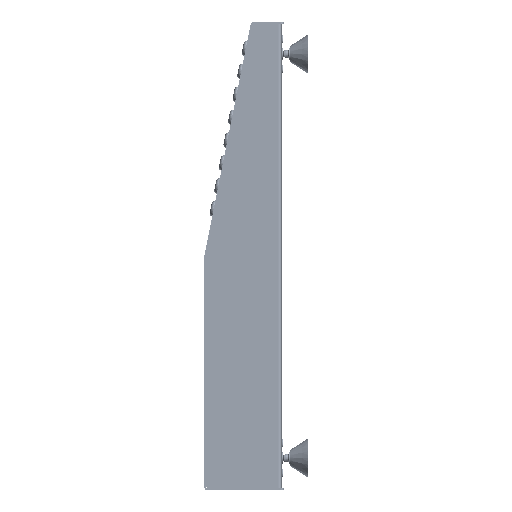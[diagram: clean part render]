
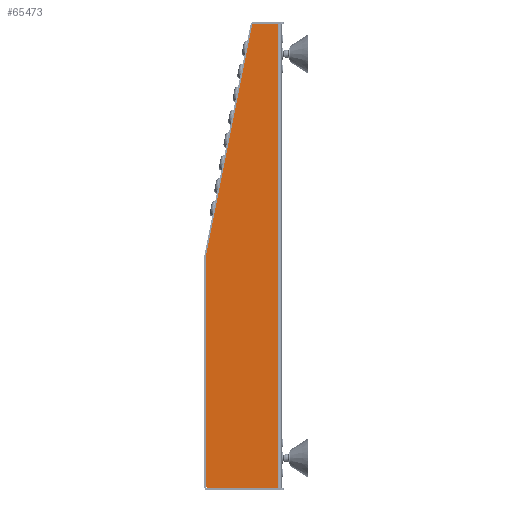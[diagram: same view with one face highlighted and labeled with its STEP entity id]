
A CAD part, left-side view. The second image highlights one B-rep face of the part: STEP entity #65473.
In plain terms, the highlighted planar face has unit normal (-1, 0, 0).
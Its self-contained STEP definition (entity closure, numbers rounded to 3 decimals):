
#549 = CARTESIAN_POINT ( 'NONE',  ( -270.272, -41.191, 910. ) ) ;
#1707 = EDGE_CURVE ( 'NONE', #30301, #14673, #14995, .T. ) ;
#1824 = EDGE_CURVE ( 'NONE', #69744, #7540, #22169, .T. ) ;
#2837 = FACE_OUTER_BOUND ( 'NONE', #20779, .T. ) ;
#2993 = CARTESIAN_POINT ( 'NONE',  ( -270.272, 47.309, 314. ) ) ;
#3195 = LINE ( 'NONE', #16761, #70899 ) ;
#7195 = PLANE ( 'NONE',  #54635 ) ;
#7465 = ORIENTED_EDGE ( 'NONE', *, *, #48470, .T. ) ;
#7540 = VERTEX_POINT ( 'NONE', #23604 ) ;
#8161 = CARTESIAN_POINT ( 'NONE',  ( -270.272, -41.191, 910. ) ) ;
#8198 = ORIENTED_EDGE ( 'NONE', *, *, #33863, .T. ) ;
#8258 = LINE ( 'NONE', #30186, #33664 ) ;
#8593 = DIRECTION ( 'NONE',  ( 0., 0., -1. ) ) ;
#11297 = CARTESIAN_POINT ( 'NONE',  ( -270.272, -8.09, 908.794 ) ) ;
#12047 = EDGE_CURVE ( 'NONE', #59924, #69744, #16184, .T. ) ;
#13736 = CARTESIAN_POINT ( 'NONE',  ( -270.272, 51.309, 318. ) ) ;
#14673 = VERTEX_POINT ( 'NONE', #42809 ) ;
#14934 = ORIENTED_EDGE ( 'NONE', *, *, #12047, .T. ) ;
#14995 = LINE ( 'NONE', #54217, #48764 ) ;
#16071 = DIRECTION ( 'NONE',  ( 0., -1., 0. ) ) ;
#16184 = CIRCLE ( 'NONE', #35711, 4. ) ;
#16761 = CARTESIAN_POINT ( 'NONE',  ( -270.272, 51.309, 314. ) ) ;
#17493 = CARTESIAN_POINT ( 'NONE',  ( -270.272, -42.691, 314. ) ) ;
#19997 = CARTESIAN_POINT ( 'NONE',  ( -270.272, 51.309, 611.653 ) ) ;
#20779 = EDGE_LOOP ( 'NONE', ( #52785, #14934, #64246, #33549, #7465, #8198, #32905, #25634 ) ) ;
#21151 = DIRECTION ( 'NONE',  ( 0., 1., 0. ) ) ;
#22169 = LINE ( 'NONE', #17493, #38395 ) ;
#22860 = DIRECTION ( 'NONE',  ( 0., 0., -1. ) ) ;
#23351 = EDGE_CURVE ( 'NONE', #14673, #33086, #42192, .T. ) ;
#23604 = CARTESIAN_POINT ( 'NONE',  ( -270.272, -41.191, 314. ) ) ;
#25634 = ORIENTED_EDGE ( 'NONE', *, *, #23351, .T. ) ;
#28561 = VERTEX_POINT ( 'NONE', #65007 ) ;
#29199 = DIRECTION ( 'NONE',  ( 0., -1., 0. ) ) ;
#30186 = CARTESIAN_POINT ( 'NONE',  ( -270.272, 51.309, 910. ) ) ;
#30301 = VERTEX_POINT ( 'NONE', #11297 ) ;
#32905 = ORIENTED_EDGE ( 'NONE', *, *, #1707, .T. ) ;
#33086 = VERTEX_POINT ( 'NONE', #19997 ) ;
#33316 = LINE ( 'NONE', #549, #52088 ) ;
#33549 = ORIENTED_EDGE ( 'NONE', *, *, #48990, .F. ) ;
#33664 = VECTOR ( 'NONE', #21151, 1000. ) ;
#33863 = EDGE_CURVE ( 'NONE', #28561, #30301, #51431, .T. ) ;
#33965 = DIRECTION ( 'NONE',  ( 0., -1., 0. ) ) ;
#34320 = DIRECTION ( 'NONE',  ( -1., 0., 0. ) ) ;
#34466 = EDGE_CURVE ( 'NONE', #33086, #59924, #3195, .T. ) ;
#35711 = AXIS2_PLACEMENT_3D ( 'NONE', #55600, #34320, #33965 ) ;
#38395 = VECTOR ( 'NONE', #39401, 1000. ) ;
#38923 = VERTEX_POINT ( 'NONE', #8161 ) ;
#39401 = DIRECTION ( 'NONE',  ( 0., -1., 0. ) ) ;
#42192 = CIRCLE ( 'NONE', #49155, 1.5 ) ;
#42312 = DIRECTION ( 'NONE',  ( 0., 0.196, -0.981 ) ) ;
#42809 = CARTESIAN_POINT ( 'NONE',  ( -270.272, 51.28, 611.948 ) ) ;
#46047 = DIRECTION ( 'NONE',  ( 0., -1., 0. ) ) ;
#46810 = CARTESIAN_POINT ( 'NONE',  ( -270.272, -9.56, 908.5 ) ) ;
#48470 = EDGE_CURVE ( 'NONE', #38923, #28561, #8258, .T. ) ;
#48764 = VECTOR ( 'NONE', #42312, 1000. ) ;
#48990 = EDGE_CURVE ( 'NONE', #38923, #7540, #33316, .T. ) ;
#49155 = AXIS2_PLACEMENT_3D ( 'NONE', #60715, #65409, #16071 ) ;
#51431 = CIRCLE ( 'NONE', #69705, 1.5 ) ;
#51444 = CARTESIAN_POINT ( 'NONE',  ( -270.272, -45.691, 910. ) ) ;
#52088 = VECTOR ( 'NONE', #22860, 1000. ) ;
#52210 = DIRECTION ( 'NONE',  ( -1., 0., 0. ) ) ;
#52785 = ORIENTED_EDGE ( 'NONE', *, *, #34466, .T. ) ;
#54217 = CARTESIAN_POINT ( 'NONE',  ( -270.272, -9.768, 917.185 ) ) ;
#54635 = AXIS2_PLACEMENT_3D ( 'NONE', #51444, #68751, #46047 ) ;
#55600 = CARTESIAN_POINT ( 'NONE',  ( -270.272, 47.309, 318. ) ) ;
#59924 = VERTEX_POINT ( 'NONE', #13736 ) ;
#60715 = CARTESIAN_POINT ( 'NONE',  ( -270.272, 49.809, 611.653 ) ) ;
#64246 = ORIENTED_EDGE ( 'NONE', *, *, #1824, .T. ) ;
#65007 = CARTESIAN_POINT ( 'NONE',  ( -270.272, -9.56, 910. ) ) ;
#65409 = DIRECTION ( 'NONE',  ( -1., 0., 0. ) ) ;
#65473 = ADVANCED_FACE ( 'NONE', ( #2837 ), #7195, .F. ) ;
#68751 = DIRECTION ( 'NONE',  ( 1., 0., 0. ) ) ;
#69705 = AXIS2_PLACEMENT_3D ( 'NONE', #46810, #52210, #29199 ) ;
#69744 = VERTEX_POINT ( 'NONE', #2993 ) ;
#70899 = VECTOR ( 'NONE', #8593, 1000. ) ;
